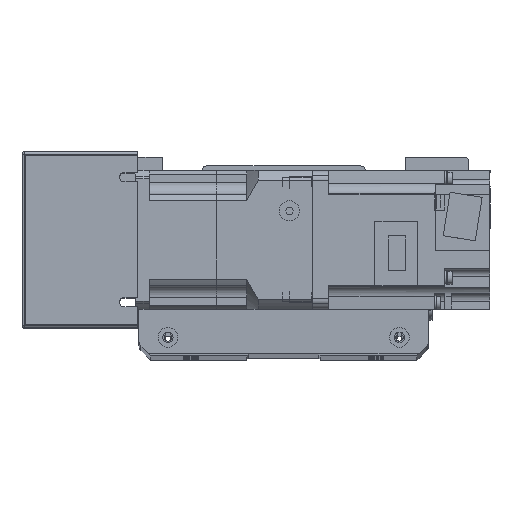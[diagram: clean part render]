
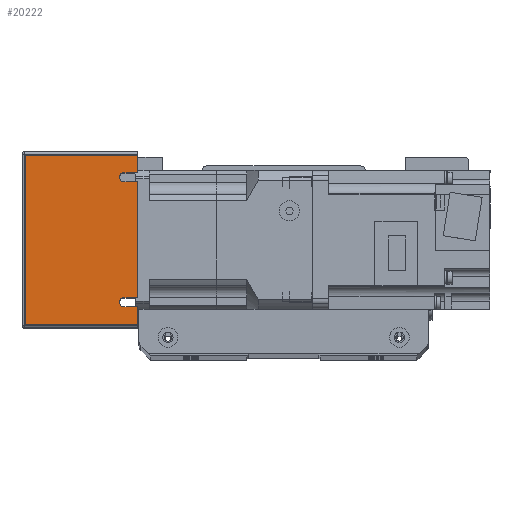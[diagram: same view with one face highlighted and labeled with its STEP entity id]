
A CAD part, top view. The second image highlights one B-rep face of the part: STEP entity #20222.
In plain terms, the highlighted planar face has unit normal (0, 0, 1) as drawn and (-1, 0, 0) by its records, which use the part's own axes.
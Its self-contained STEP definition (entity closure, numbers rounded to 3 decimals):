
#706=PLANE('',#22412);
#2036=LINE('',#34246,#3660);
#2045=LINE('',#34265,#3669);
#2052=LINE('',#34282,#3676);
#2060=LINE('',#34300,#3684);
#2073=LINE('',#34339,#3697);
#2078=LINE('',#34351,#3702);
#2082=LINE('',#34363,#3706);
#2085=LINE('',#34373,#3709);
#2086=LINE('',#34375,#3710);
#2087=LINE('',#34376,#3711);
#3660=VECTOR('',#27757,10.);
#3669=VECTOR('',#27770,10.);
#3676=VECTOR('',#27781,10.);
#3684=VECTOR('',#27793,10.);
#3697=VECTOR('',#27836,10.);
#3702=VECTOR('',#27847,10.);
#3706=VECTOR('',#27857,10.);
#3709=VECTOR('',#27868,10.);
#3710=VECTOR('',#27869,10.);
#3711=VECTOR('',#27870,10.);
#6068=FACE_OUTER_BOUND('',#7700,.T.);
#7700=EDGE_LOOP('',(#18161,#18162,#18163,#18164,#18165,#18166,#18167,#18168,
#18169,#18170,#18171,#18172));
#8856=CIRCLE('',#22390,2.);
#8861=CIRCLE('',#22398,2.);
#10561=VERTEX_POINT('',#34243);
#10562=VERTEX_POINT('',#34245);
#10568=VERTEX_POINT('',#34259);
#10570=VERTEX_POINT('',#34263);
#10577=VERTEX_POINT('',#34279);
#10578=VERTEX_POINT('',#34281);
#10585=VERTEX_POINT('',#34297);
#10586=VERTEX_POINT('',#34299);
#10597=VERTEX_POINT('',#34337);
#10606=VERTEX_POINT('',#34362);
#10609=VERTEX_POINT('',#34372);
#10610=VERTEX_POINT('',#34374);
#13128=EDGE_CURVE('',#10562,#10561,#2036,.T.);
#13137=EDGE_CURVE('',#10568,#10570,#2045,.T.);
#13144=EDGE_CURVE('',#10578,#10577,#2052,.T.);
#13152=EDGE_CURVE('',#10586,#10585,#2060,.T.);
#13158=EDGE_CURVE('',#10570,#10562,#8856,.T.);
#13169=EDGE_CURVE('',#10585,#10578,#8861,.T.);
#13174=EDGE_CURVE('',#10597,#10577,#2073,.T.);
#13181=EDGE_CURVE('',#10586,#10561,#2078,.T.);
#13187=EDGE_CURVE('',#10568,#10606,#2082,.T.);
#13192=EDGE_CURVE('',#10609,#10597,#2085,.T.);
#13193=EDGE_CURVE('',#10610,#10609,#2086,.T.);
#13194=EDGE_CURVE('',#10606,#10610,#2087,.T.);
#18161=ORIENTED_EDGE('',*,*,#13128,.T.);
#18162=ORIENTED_EDGE('',*,*,#13181,.F.);
#18163=ORIENTED_EDGE('',*,*,#13152,.T.);
#18164=ORIENTED_EDGE('',*,*,#13169,.T.);
#18165=ORIENTED_EDGE('',*,*,#13144,.T.);
#18166=ORIENTED_EDGE('',*,*,#13174,.F.);
#18167=ORIENTED_EDGE('',*,*,#13192,.F.);
#18168=ORIENTED_EDGE('',*,*,#13193,.F.);
#18169=ORIENTED_EDGE('',*,*,#13194,.F.);
#18170=ORIENTED_EDGE('',*,*,#13187,.F.);
#18171=ORIENTED_EDGE('',*,*,#13137,.T.);
#18172=ORIENTED_EDGE('',*,*,#13158,.T.);
#20222=ADVANCED_FACE('',(#6068),#706,.T.);
#22390=AXIS2_PLACEMENT_3D('',#34312,#27803,#27804);
#22398=AXIS2_PLACEMENT_3D('',#34330,#27825,#27826);
#22412=AXIS2_PLACEMENT_3D('',#34371,#27866,#27867);
#27757=DIRECTION('',(0.,0.,1.));
#27770=DIRECTION('',(0.,0.,-1.));
#27781=DIRECTION('',(0.,0.,1.));
#27793=DIRECTION('',(0.,0.,-1.));
#27803=DIRECTION('center_axis',(1.,0.,0.));
#27804=DIRECTION('ref_axis',(0.,0.,1.));
#27825=DIRECTION('center_axis',(1.,0.,0.));
#27826=DIRECTION('ref_axis',(0.,0.,1.));
#27836=DIRECTION('',(0.,-1.,0.));
#27847=DIRECTION('',(0.,-1.,0.));
#27857=DIRECTION('',(0.,-1.,0.));
#27866=DIRECTION('center_axis',(-1.,0.,0.));
#27867=DIRECTION('ref_axis',(0.,-1.,0.));
#27868=DIRECTION('',(0.,0.,1.));
#27869=DIRECTION('',(0.,1.,0.));
#27870=DIRECTION('',(0.,0.,-1.));
#34243=CARTESIAN_POINT('',(-91.,-25.,25.));
#34245=CARTESIAN_POINT('',(-91.,-25.,19.));
#34246=CARTESIAN_POINT('',(-91.,-25.,9.5));
#34259=CARTESIAN_POINT('',(-91.,-29.,25.));
#34263=CARTESIAN_POINT('',(-91.,-29.,19.));
#34265=CARTESIAN_POINT('',(-91.,-29.,15.178));
#34279=CARTESIAN_POINT('',(-91.,29.,25.));
#34281=CARTESIAN_POINT('',(-91.,29.,19.));
#34282=CARTESIAN_POINT('',(-91.,29.,9.5));
#34297=CARTESIAN_POINT('',(-91.,25.,19.));
#34299=CARTESIAN_POINT('',(-91.,25.,25.));
#34300=CARTESIAN_POINT('',(-91.,25.,15.178));
#34312=CARTESIAN_POINT('Origin',(-91.,-27.,19.));
#34330=CARTESIAN_POINT('Origin',(-91.,27.,19.));
#34337=CARTESIAN_POINT('',(-91.,37.,25.));
#34339=CARTESIAN_POINT('',(-91.,-38.,25.));
#34351=CARTESIAN_POINT('',(-91.,-38.,25.));
#34362=CARTESIAN_POINT('',(-91.,-37.,25.));
#34363=CARTESIAN_POINT('',(-91.,-38.,25.));
#34371=CARTESIAN_POINT('Origin',(-91.,38.,0.));
#34372=CARTESIAN_POINT('',(-91.,37.,-24.));
#34373=CARTESIAN_POINT('',(-91.,37.,0.));
#34374=CARTESIAN_POINT('',(-91.,-37.,-24.));
#34375=CARTESIAN_POINT('',(-91.,19.,-24.));
#34376=CARTESIAN_POINT('',(-91.,-37.,0.));
